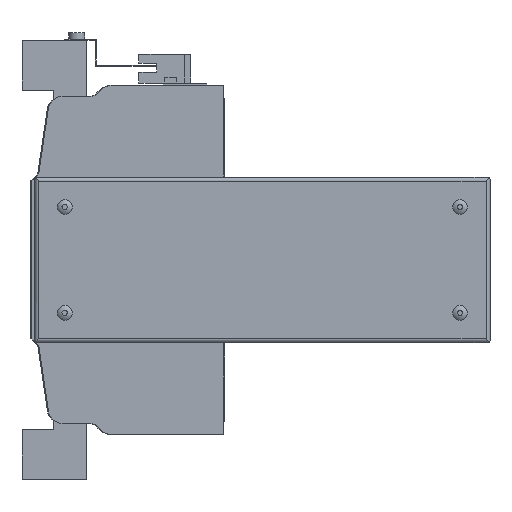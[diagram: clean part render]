
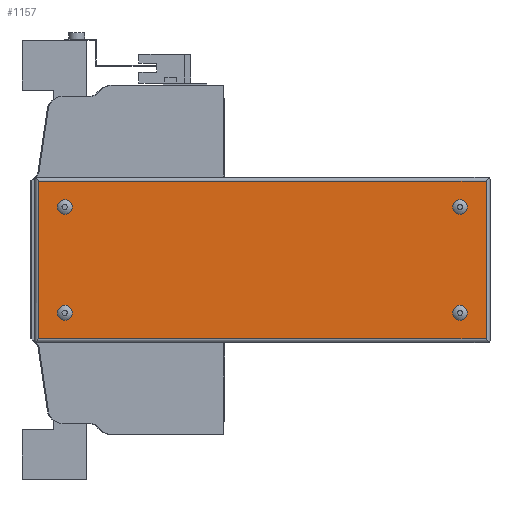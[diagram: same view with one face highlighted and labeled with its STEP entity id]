
A CAD part, left-side view. The second image highlights one B-rep face of the part: STEP entity #1157.
In plain terms, the highlighted planar face has unit normal (-1, 0, 0).
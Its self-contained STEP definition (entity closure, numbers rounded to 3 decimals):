
#1157 = ADVANCED_FACE( '', ( #2573, #2574, #2575, #2576, #2577 ), #2578, .F. );
#2573 = FACE_BOUND( '', #4340, .T. );
#2574 = FACE_BOUND( '', #4341, .T. );
#2575 = FACE_BOUND( '', #4342, .T. );
#2576 = FACE_BOUND( '', #4343, .T. );
#2577 = FACE_OUTER_BOUND( '', #4344, .T. );
#2578 = PLANE( '', #4345 );
#4340 = EDGE_LOOP( '', ( #7368 ) );
#4341 = EDGE_LOOP( '', ( #7369 ) );
#4342 = EDGE_LOOP( '', ( #7370 ) );
#4343 = EDGE_LOOP( '', ( #7371 ) );
#4344 = EDGE_LOOP( '', ( #7372, #7373, #7374, #7375 ) );
#4345 = AXIS2_PLACEMENT_3D( '', #7376, #7377, #7378 );
#7368 = ORIENTED_EDGE( '', *, *, #11344, .F. );
#7369 = ORIENTED_EDGE( '', *, *, #10435, .F. );
#7370 = ORIENTED_EDGE( '', *, *, #11345, .F. );
#7371 = ORIENTED_EDGE( '', *, *, #11346, .F. );
#7372 = ORIENTED_EDGE( '', *, *, #11347, .F. );
#7373 = ORIENTED_EDGE( '', *, *, #11348, .F. );
#7374 = ORIENTED_EDGE( '', *, *, #11331, .T. );
#7375 = ORIENTED_EDGE( '', *, *, #11349, .T. );
#7376 = CARTESIAN_POINT( '', ( -66., -131.95, 40.5 ) );
#7377 = DIRECTION( '', ( 1., 0., 0. ) );
#7378 = DIRECTION( '', ( 0., 0., -1. ) );
#10435 = EDGE_CURVE( '', #12499, #12499, #12500, .F. );
#11331 = EDGE_CURVE( '', #13946, #13947, #13948, .T. );
#11344 = EDGE_CURVE( '', #13967, #13967, #13968, .F. );
#11345 = EDGE_CURVE( '', #13969, #13969, #13970, .F. );
#11346 = EDGE_CURVE( '', #13971, #13971, #13972, .F. );
#11347 = EDGE_CURVE( '', #13973, #13974, #13975, .T. );
#11348 = EDGE_CURVE( '', #13946, #13973, #13976, .T. );
#11349 = EDGE_CURVE( '', #13947, #13974, #13977, .T. );
#12499 = VERTEX_POINT( '', #15467 );
#12500 = CIRCLE( '', #15468, 3.7 );
#13946 = VERTEX_POINT( '', #17505 );
#13947 = VERTEX_POINT( '', #17506 );
#13948 = LINE( '', #17507, #17508 );
#13967 = VERTEX_POINT( '', #17536 );
#13968 = CIRCLE( '', #17537, 3.7 );
#13969 = VERTEX_POINT( '', #17538 );
#13970 = CIRCLE( '', #17539, 3.7 );
#13971 = VERTEX_POINT( '', #17540 );
#13972 = CIRCLE( '', #17541, 3.7 );
#13973 = VERTEX_POINT( '', #17542 );
#13974 = VERTEX_POINT( '', #17543 );
#13975 = LINE( '', #17544, #17545 );
#13976 = LINE( '', #17546, #17547 );
#13977 = LINE( '', #17548, #17549 );
#15467 = CARTESIAN_POINT( '', ( -66., -117.95, -30.2 ) );
#15468 = AXIS2_PLACEMENT_3D( '', #19127, #19128, #19129 );
#17505 = CARTESIAN_POINT( '', ( -66., 93.05, -39.5 ) );
#17506 = CARTESIAN_POINT( '', ( -66., -130.95, -39.5 ) );
#17507 = CARTESIAN_POINT( '', ( -66., 228., -39.5 ) );
#17508 = VECTOR( '', #20059, 1000. );
#17536 = CARTESIAN_POINT( '', ( -66., -117.95, 22.8 ) );
#17537 = AXIS2_PLACEMENT_3D( '', #20076, #20077, #20078 );
#17538 = CARTESIAN_POINT( '', ( -66., 80.05, 22.8 ) );
#17539 = AXIS2_PLACEMENT_3D( '', #20079, #20080, #20081 );
#17540 = CARTESIAN_POINT( '', ( -66., 80.05, -30.2 ) );
#17541 = AXIS2_PLACEMENT_3D( '', #20082, #20083, #20084 );
#17542 = CARTESIAN_POINT( '', ( -66., 93.05, 39.5 ) );
#17543 = CARTESIAN_POINT( '', ( -66., -130.95, 39.5 ) );
#17544 = CARTESIAN_POINT( '', ( -66., 228., 39.5 ) );
#17545 = VECTOR( '', #20085, 1000. );
#17546 = CARTESIAN_POINT( '', ( -66., 93.05, -83. ) );
#17547 = VECTOR( '', #20086, 1000. );
#17548 = CARTESIAN_POINT( '', ( -66., -130.95, -83. ) );
#17549 = VECTOR( '', #20087, 1000. );
#19127 = CARTESIAN_POINT( '', ( -66., -117.95, -26.5 ) );
#19128 = DIRECTION( '', ( 1., 0., 0. ) );
#19129 = DIRECTION( '', ( 0., 0., -1. ) );
#20059 = DIRECTION( '', ( 0., -1., 0. ) );
#20076 = CARTESIAN_POINT( '', ( -66., -117.95, 26.5 ) );
#20077 = DIRECTION( '', ( 1., 0., 0. ) );
#20078 = DIRECTION( '', ( 0., 0., -1. ) );
#20079 = CARTESIAN_POINT( '', ( -66., 80.05, 26.5 ) );
#20080 = DIRECTION( '', ( 1., 0., 0. ) );
#20081 = DIRECTION( '', ( 0., 0., -1. ) );
#20082 = CARTESIAN_POINT( '', ( -66., 80.05, -26.5 ) );
#20083 = DIRECTION( '', ( 1., 0., 0. ) );
#20084 = DIRECTION( '', ( 0., 0., -1. ) );
#20085 = DIRECTION( '', ( 0., -1., 0. ) );
#20086 = DIRECTION( '', ( 0., 0., 1. ) );
#20087 = DIRECTION( '', ( 0., 0., 1. ) );
